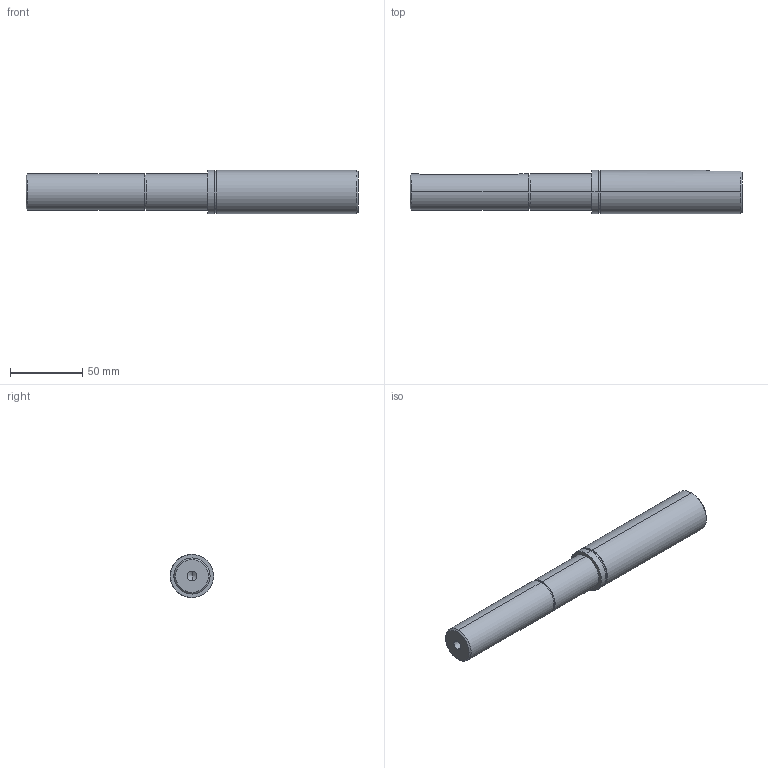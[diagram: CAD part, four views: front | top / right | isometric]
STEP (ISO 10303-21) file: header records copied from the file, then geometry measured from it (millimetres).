
FILE_DESCRIPTION (( 'STEP AP203' ), '1' );
FILE_NAME ('084.812.002.STEP', '2013-01-29T14:02:54', ( 'Alusic' ), ( 'Alusic' ), 'SwSTEP 2.0', 'SolidWorks 2011', '' );
FILE_SCHEMA (( 'CONFIG_CONTROL_DESIGN' ));
Length unit declared in the file: millimetre
Products named in the file (1): 084.812.002
Bounding box: 230 x 30 x 30 mm (x, y, z)
Volume: 131629.2 mm3; surface area: 22265.6 mm2
Topology: 1 solids, 1 shells, 37 faces, 81 edges, 51 vertices
Faces by surface type: cylinder 17, plane 13, cone 7
Entity records: 1180 total; most frequent: CARTESIAN_POINT 271, DIRECTION 187, ORIENTED_EDGE 158, EDGE_CURVE 79, AXIS2_PLACEMENT_3D 75, VERTEX_POINT 51, EDGE_LOOP 44, ADVANCED_FACE 37
